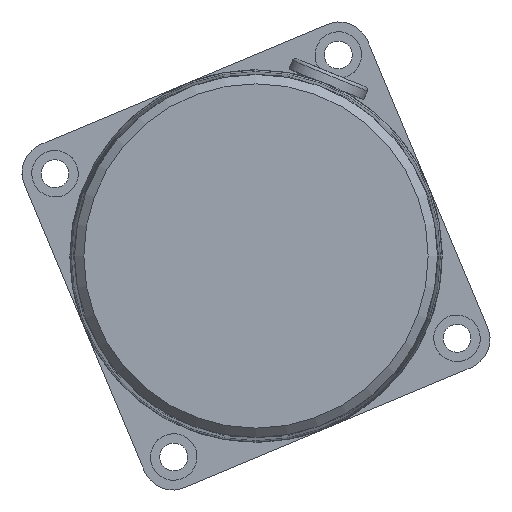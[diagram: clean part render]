
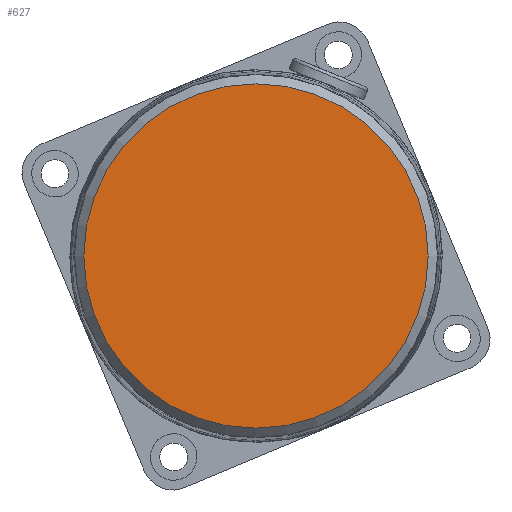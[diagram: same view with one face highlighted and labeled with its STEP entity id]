
A CAD part, left-side view. The second image highlights one B-rep face of the part: STEP entity #627.
In plain terms, the highlighted planar face has unit normal (-1, 0, 0).
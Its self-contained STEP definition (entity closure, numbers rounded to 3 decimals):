
#607=CARTESIAN_POINT('',(0.,27.75,0.0));
#608=VERTEX_POINT('',#607);
#609=CARTESIAN_POINT('',(0.,0.0,0.0));
#610=DIRECTION('',(1.0,0.0,0.0));
#611=DIRECTION('',(0.0,1.0,0.0));
#612=AXIS2_PLACEMENT_3D('',#609,#610,#611);
#613=CIRCLE('',#612,27.75);
#614=EDGE_CURVE('',#608,#608,#613,.T.);
#619=CARTESIAN_POINT('',(0.,13.875,0.0));
#620=DIRECTION('',(-1.0,0.0,0.0));
#621=DIRECTION('',(0.0,0.0,1.0));
#622=AXIS2_PLACEMENT_3D('',#619,#620,#621);
#623=PLANE('',#622);
#624=ORIENTED_EDGE('',*,*,#614,.F.);
#625=EDGE_LOOP('',(#624));
#626=FACE_OUTER_BOUND('',#625,.T.);
#627=ADVANCED_FACE('',(#626),#623,.T.);
